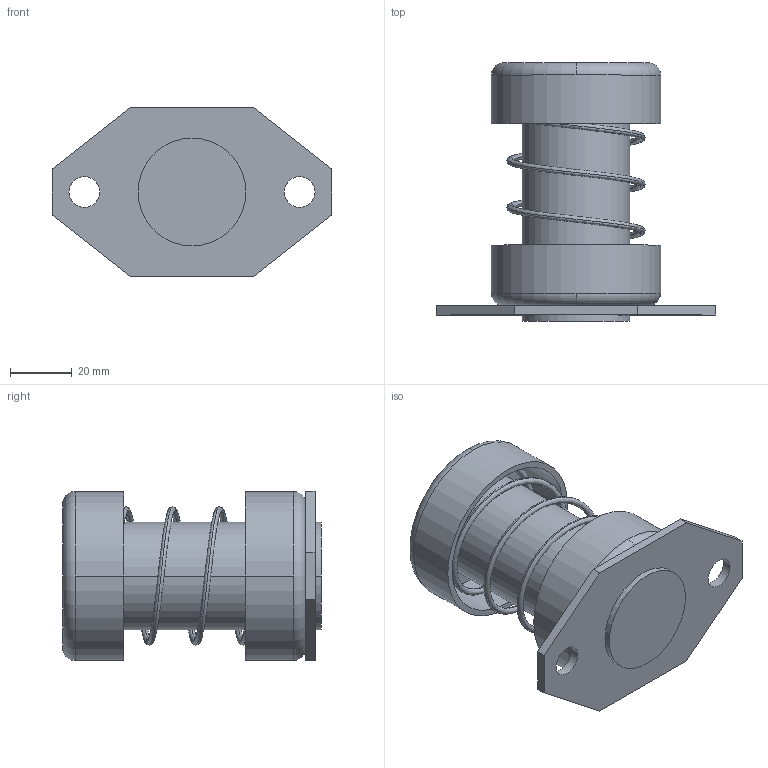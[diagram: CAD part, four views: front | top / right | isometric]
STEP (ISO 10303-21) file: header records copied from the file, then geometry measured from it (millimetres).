
FILE_DESCRIPTION(('STEP AP214'),'1');
FILE_NAME('accessory_5130863900.stp','2017-06-17T03:50:19',('TraceParts'),('TraceParts S.A.'),'Spatial InterOp 3D',' ',' ');
FILE_SCHEMA(('automotive_design'));
Length unit declared in the file: millimetre
Products named in the file (1): accessory_5130863900
Bounding box: 91 x 84 x 55 mm (x, y, z)
Volume: 102242 mm3; surface area: 38783.6 mm2
Topology: 1 solids, 1 shells, 47 faces, 110 edges, 74 vertices
Faces by surface type: plane 21, cylinder 20, torus 4, bspline 2
Entity records: 5920 total; most frequent: CARTESIAN_POINT 4398, DIRECTION 250, ORIENTED_EDGE 220, EDGE_CURVE 110, AXIS2_PLACEMENT_3D 102, VERTEX_POINT 74, EDGE_LOOP 60, CIRCLE 56
